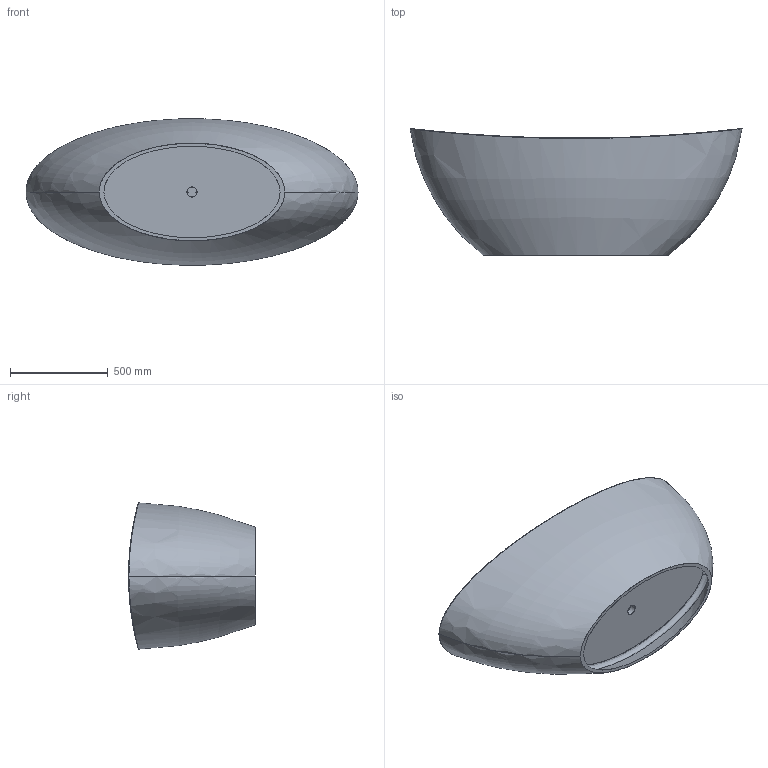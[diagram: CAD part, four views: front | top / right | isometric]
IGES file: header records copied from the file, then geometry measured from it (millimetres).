
Start section: SolidWorks IGES file using analytic representation for surfaces
Global section: file name: D:\Users\M.Szymanski\Desktop\Wanny\Namur\03. do przegrania\WOW_NAMUR_75x170.IGS; native system: SolidWorks 2011; preprocessor: SolidWorks 2011; author: M.Szymanski; date: 180409.135822; units: millimetre
Bounding box: 1699.28 x 649.7 x 749.6 mm (x, y, z)
Surface area: 5250655.7 mm2 (no closed solid volume)
Topology: 0 solids, 0 shells, 43 faces, 1330 edges, 1327 vertices
Faces by surface type: bspline 31, revolution 12
